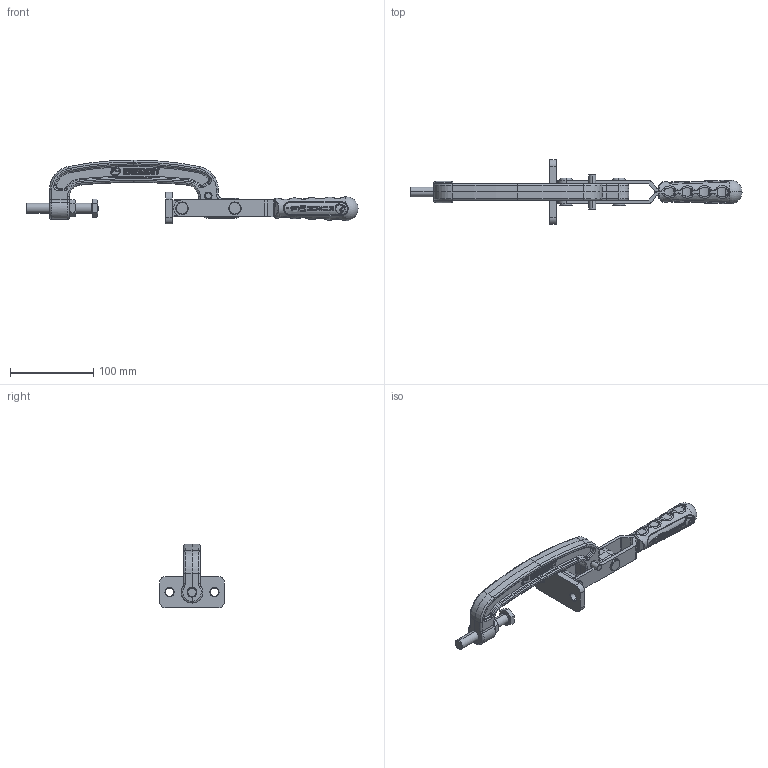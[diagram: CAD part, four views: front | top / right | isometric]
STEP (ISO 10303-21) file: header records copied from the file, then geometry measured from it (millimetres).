
FILE_DESCRIPTION(('STEP AP242'),'1');
FILE_NAME('811-3.stp','2023-11-30T11:44:14',('TraceParts'),('TraceParts S.A.'),'Spatial InterOp 3D',' ',' ');
FILE_SCHEMA(('AP242_MANAGED_MODEL_BASED_3D_ENGINEERING_MIM_LF {1 0 10303 442 1 1 4}'));
Length unit declared in the file: millimetre
Products named in the file (1): 811-3_1
Bounding box: 399.33 x 78 x 76.95 mm (x, y, z)
Volume: 230420.8 mm3; surface area: 77381.2 mm2
Topology: 7 solids, 7 shells, 3536 faces, 9270 edges, 5717 vertices
Faces by surface type: plane 1287, cylinder 1039, bspline 613, torus 317, cone 274, sphere 6
Entity records: 137600 total; most frequent: CARTESIAN_POINT 47526, ORIENTED_EDGE 18294, DIRECTION 16119, EDGE_CURVE 9147, AXIS2_PLACEMENT_3D 6159, VERTEX_POINT 5717, LINE 3801, VECTOR 3801
